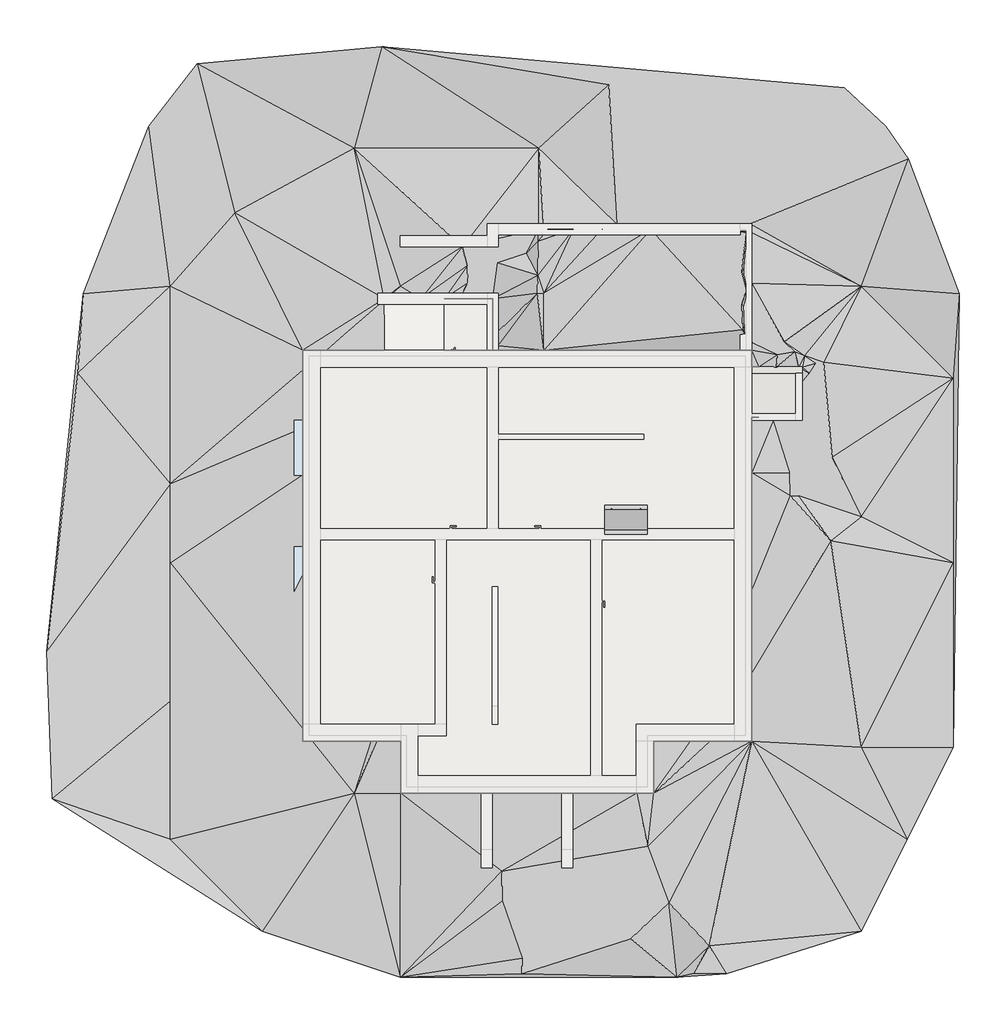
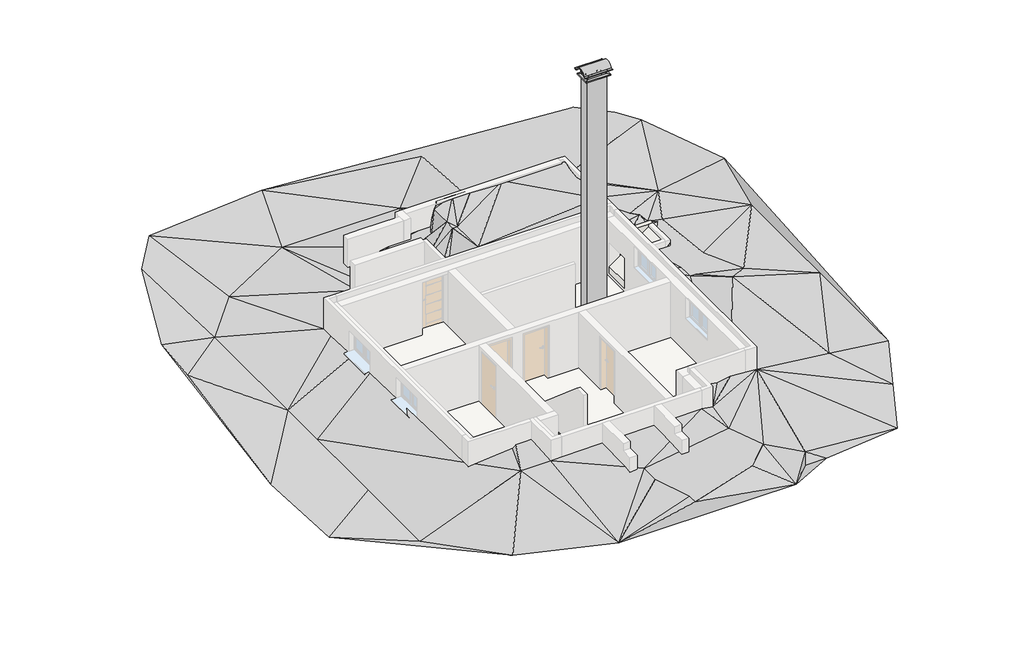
# Not in any storey, part 2 of 2: 8 footings, 6 slabs, 4 proxies, 1 wall.
"""IFC4 building model written with IfcOpenShell, lengths in millimetres."""

from ifc_helpers import new_model, si_unit, frame, origin, place, context, project, spatial, polyline, outline, extrude, faceted_brep, triangles, transform, mapped, element, save
from components import proxy_360_x_650_x_6000_d_140_bfd82147

model = new_model("IFC4")

# Units and contexts
model_context = context("Model", 3, world=origin())
ifc_project = project(units=[si_unit("LENGTHUNIT", "METRE", prefix="MILLI")], contexts=[model_context])

# Site, building
site = spatial("IfcSite", under=ifc_project)
building = spatial("IfcBuilding", under=site)

# Proxies
placement = place(None, origin())
element("IfcBuildingElementProxy", 1, Name="Building Element Proxy", at=placement, inside=building, context=model_context, shape_type="Tessellation", body=[
    triangles([(-3006.145578, -3000.0000229, -246.6645224), (-6.1454637, -4000.0000305, -246.6645224), (5993.8544907, -4000.0000305, -246.6645224), (7061.4567673, -3919.3439072, 253.3354633), (9993.8551025, -3000.0000229, -246.6645224), (10993.8545288, -1000.0000076, -246.6645224), (11993.8539551, 1000.0000076, -246.6645224), (12126.3923767, 10842.9381592, 253.3354633), (11017.1356659, 13770.1420441, 253.3354633), (10524.1332001, 14478.83367, 253.3354633), (9630.5656494, 15310.7759125, 253.3354633), (-414.3653326, 16204.3434631, 253.3354633), (-4420.0127655, 15834.5916138, 253.3354633), (-5467.6435867, 14478.83367, 253.3354633), (-6885.0262573, 10842.9381592, 253.3354633), (-7686.1558456, 3078.1455437, 253.3354633), (-7562.9052292, -126.3724099, 253.3354633), (7614.9997238, 9249.9999252, 198.8656776), (7773.6202744, 9249.9999252, 172.0674587), (7774.9998413, 9249.9999252, 172.1872188), (7774.9998413, 9244.8932602, 171.2769728), (7774.9998413, 9239.9999542, 170.7428484), (7776.3218536, 9239.9999542, 170.5194972), (8151.3745422, 9239.9999542, 203.0732696), (8640.3691132, 9239.9999542, 81.7925365), (8715.0000229, 9239.9999542, 75.7234348), (8715.0000229, 9196.6903885, 54.5431506), (8715.0000229, 8926.3894455, 0.0), (8715.0000229, 8091.2340271, 0.0), (8146.4818176, 8091.2340271, 0.0), (8088.5847702, 8091.2340271, 0.0), (8084.4832764, 8091.2340271, 0.0), (7774.9998413, 8091.2340271, 66.7764973), (7774.9998413, 8161.2344055, 63.3962757), (7614.9997238, 8161.2344055, 97.9191412), (7614.9997238, 6948.7531815, 156.4684653), (7614.9997238, 4396.8633064, 68.5384173), (7614.9997238, 2612.187648, 253.3354633), (7614.9997238, 1125.0000086, 185.8592041), (6724.1721222, 1125.0000086, 253.3354633), (6285.6983047, 1125.0000086, 177.5385273), (5489.9997803, 1125.0000086, 310.2673625), (5489.9997803, 0.0, 271.5034314), (5120.6595337, 0.0, 333.1124434), (0.0, 0.0, 266.4364623), (0.0, 1125.0000086, 347.5304586), (-524.6712087, 1125.0000086, 340.6987172), (-644.7158798, 1125.0000086, 253.3354633), (-1906.1454243, 1125.0000086, 140.8354715), (-2124.9999435, 1125.0000086, 113.4786566), (-2124.9999435, 1398.5681213, 113.4786566), (-2124.9999435, 6907.6429001, -44.3694438), (-2124.9999435, 7925.8074966, -44.3694438), (-2124.9999435, 9182.0325623, -104.5292483), (-2124.9999435, 9614.9997391, -104.5292483), (-1620.3733326, 9614.9997391, -79.6345469), (-360.00001, 9614.9997391, 34.3305966), (-360.00001, 10696.3947784, -17.456672), (-360.00001, 10735.0005615, -17.456672), (-315.0049367, 10735.0005615, -15.2369356), (431.2891906, 10735.0005615, 52.2442811), (950.5286087, 10735.0005615, 154.1045835), (1456.3643028, 10735.0005615, 253.3354633), (1995.0000298, 10735.0005615, 253.3354633), (1995.0000298, 9900.8386871, 253.3354633), (1995.0000298, 9787.696756, 239.0034711), (1995.0000298, 9664.3624237, 244.9098511), (1995.0000298, 9635.5467407, 244.9098511), (1995.0000298, 9614.9997391, 245.4985688), (2082.8728638, 9614.9997391, 253.3354633), (3108.854425, 9614.9997391, 1000.0000076), (7614.9997238, 9614.9997391, 238.7069412), (-1006.1454901, 0.0, 253.3354633), (9993.8551025, 1000.0000076, 0.0), (9993.8551025, 6000.0000458, 0.0), (-6.1454637, 10999.9995026, 0.0), (2993.8544678, 14000.0001068, -246.6645224), (-1006.1454901, 14000.0001068, -246.6645224), (-3596.3679817, 12597.6647736, -246.6645224), (-5006.1455933, 10999.9995026, -246.6645224), (-5006.1455933, 6710.0229858, -246.6645224), (-5006.1455933, 5000.0000381, -246.6645224), (-5006.1455933, 2000.0000153, -246.6645224), (-5006.1455933, -1000.0000076, -246.6645224), (11993.8539551, 5000.0000381, -246.6645224), (11993.8539551, 9000.0000687, -246.6645224), (9993.8551025, 10999.9995026, -246.6645224), (5993.8544907, 12999.9995178, 253.3354633), (-7008.2768738, 9117.4289474, 253.3354633), (4515.6621597, 15372.4012207, 253.3354633), (2988.8544823, 12234.9997009, 253.3354633), (7614.9997238, 12160.4635529, 253.3354633), (7631.7870712, 9774.9998566, 253.3354633), (2114.9999725, 9715.0000305, 253.3354633), (1338.8544697, 10855.0002136, 253.3354633), (1338.8544697, 11854.9996399, 253.3354633), (2988.8544823, 11975.0004547, 950.0000072), (3108.854425, 12115.0000488, 950.0000072), (7492.3263977, 12022.9533417, 950.0000072), (3108.854425, 10855.0002136, 950.0000072), (7423.7282593, 10057.5802826, 950.0000072), (7404.1846848, 10597.2531555, 950.0000072), (7495.0000717, 10924.9994293, 950.0000072), (7404.1846848, 11304.0809418, 950.0000072), (7441.4963608, 11756.530069, 950.0000072), (7495.0000717, 12160.4635529, 950.0000072), (7028.1617065, 12234.9997009, 950.0000072), (6305.688945, 12234.9997009, 950.0000072), (5429.9644913, 12234.9997009, 950.0000072), (4379.0949142, 12234.9997009, 1000.0000076), (3744.1947144, 12234.9997009, 1000.0000076), (3196.8667854, 12234.9997009, 1000.0000076), (2977.935672, 11238.4012299, 950.0000072), (2966.9892471, 10855.0002136, 950.0000072), (3098.3477989, 12355.0005157, 253.3354633), (3744.1947144, 12355.0005157, 253.3354633), (4685.5985893, 12355.0005157, 253.3354633), (5473.7507721, 12355.0005157, 253.3354633), (6535.566774, 12355.0005157, 253.3354633), (6152.4372528, 12355.0005157, 253.3354633), (7028.1617065, 12355.0005157, 253.3354633), (7586.4357697, 12355.0005157, 253.3354633), (7614.9997238, 11692.0979553, 253.3354633), (7614.9997238, 11065.0001862, 253.3354633), (7585.764299, 10444.7426971, 253.3354633), (7614.9997238, 9973.5807587, 253.3354633), (1895.1187717, 11605.1137299, 253.3354633), (1445.4177326, 11446.3850464, 253.3354633), (1456.3643028, 11074.2031128, 253.3354633), (1456.3643028, 10855.0002136, 253.3354633), (1686.9199974, 11605.992746, 253.3354633), (1968.3868286, 11433.7613983, 253.3354633), (2726.225164, 11721.4705811, 253.3354633), (2099.5658855, 11506.7139221, 253.3354633), (2190.9571095, -1694.2166451, 253.3354633), (2199.5246098, -2336.860849, 253.3354633), (2689.1108597, -3274.9166725, 253.3354633), (2636.3597191, -3586.0633781, 253.3354633), (2632.0335297, -3918.1785713, 253.3354633), (5361.3227509, -1150.202104, 253.3354633), (5815.377594, -2377.8185234, 253.3354633), (6698.8341339, -3312.1678871, 253.3354633), (6356.5811874, -3904.5529495, 253.3354633), (4998.5309418, -3156.7753372, 253.3354633), (3926.7071205, -2866.923262, 253.3354633), (3578.0281128, -2977.3252441, 253.3354633), (8642.3195755, 6453.7310715, 0.0), (8441.3254486, 6956.0079712, 0.0), (9331.5658768, 5477.8993561, 253.3354633), (9369.5280945, 7295.7924637, 0.0), (8450.8545181, 6454.1856949, 0.0), (8864.3833466, 9109.9997498, 0.0), (8170.5448837, 9512.647847, 253.3354633), (9004.4032883, 9330.2990936, 0.0), (9186.7886673, 9354.9877029, 0.0), (8327.129512, 9797.0833923, 253.3354633), (8767.2892731, 9493.1920578, 0.0), (8548.4846054, 9575.4945923, 253.3354633)], [[50, 84, 73], [1, 84, 17], [50, 83, 84], [17, 84, 83], [84, 1, 73], [49, 73, 48], [47, 48, 73], [73, 45, 47], [49, 50, 73], [1, 2, 73], [51, 83, 50], [16, 83, 82], [83, 16, 17], [16, 81, 89], [81, 16, 82], [81, 82, 52], [80, 89, 81], [51, 82, 83], [16, 89, 15], [53, 54, 81], [81, 54, 80], [59, 55, 56], [81, 52, 53], [51, 52, 82], [80, 54, 55], [2, 139, 138], [139, 2, 3], [146, 135, 136], [136, 135, 2], [138, 136, 2], [137, 136, 138], [139, 146, 138], [2, 135, 45], [138, 146, 137], [146, 139, 144], [135, 140, 44], [145, 146, 144], [145, 140, 135], [135, 146, 145], [145, 144, 140], [146, 136, 137], [139, 3, 144], [66, 67, 94], [56, 57, 58], [135, 44, 45], [47, 45, 46], [69, 70, 68], [94, 67, 70], [94, 70, 71], [66, 94, 65], [70, 67, 68], [114, 94, 71], [109, 100, 71], [45, 73, 2], [79, 55, 59], [56, 58, 59], [76, 59, 60], [78, 59, 76], [60, 61, 76], [80, 15, 89], [62, 63, 95], [61, 62, 128], [95, 63, 130], [129, 62, 95], [61, 96, 76], [129, 130, 64], [129, 95, 130], [80, 79, 14], [79, 59, 78], [79, 13, 14], [13, 79, 78], [13, 78, 12], [55, 79, 80], [80, 14, 15], [131, 128, 132], [128, 96, 61], [96, 77, 78], [77, 12, 78], [131, 96, 128], [127, 96, 131], [132, 128, 129], [76, 96, 78], [128, 62, 129], [130, 63, 64], [134, 64, 113], [132, 129, 64], [127, 132, 134], [127, 131, 132], [134, 132, 64], [127, 134, 133], [64, 65, 114], [114, 100, 113], [114, 65, 94], [133, 113, 97], [133, 134, 113], [111, 97, 113], [127, 133, 91], [113, 100, 111], [113, 64, 114], [71, 100, 114], [91, 133, 97], [91, 98, 112], [98, 91, 97], [116, 77, 115], [115, 77, 91], [112, 115, 91], [116, 115, 112], [98, 111, 112], [77, 96, 91], [111, 110, 116], [111, 98, 97], [117, 90, 77], [117, 116, 110], [90, 117, 88], [117, 77, 116], [110, 100, 109], [111, 116, 112], [100, 110, 111], [77, 90, 12], [110, 109, 117], [91, 96, 127], [12, 90, 11], [141, 3, 142], [141, 140, 144], [39, 43, 140], [140, 141, 39], [141, 144, 3], [143, 4, 142], [4, 143, 3], [39, 40, 43], [5, 39, 142], [141, 142, 39], [142, 4, 5], [142, 3, 143], [43, 40, 41], [41, 42, 43], [35, 36, 33], [32, 33, 36], [33, 34, 35], [38, 149, 37], [22, 23, 21], [151, 36, 37], [38, 39, 74], [149, 75, 147], [75, 149, 85], [148, 151, 147], [148, 32, 36], [147, 151, 149], [150, 148, 147], [150, 147, 75], [151, 37, 149], [6, 74, 39], [74, 7, 85], [7, 74, 6], [86, 85, 8], [74, 85, 149], [149, 38, 74], [36, 151, 148], [86, 75, 85], [31, 148, 30], [29, 30, 148], [31, 32, 148], [29, 152, 28], [155, 152, 29], [26, 27, 152], [152, 27, 28], [29, 150, 155], [150, 75, 86], [29, 148, 150], [150, 86, 155], [85, 7, 8], [5, 6, 39], [23, 24, 20], [103, 104, 102], [101, 102, 109], [99, 105, 123], [105, 104, 123], [105, 99, 107], [104, 105, 107], [102, 101, 125], [102, 104, 108], [93, 126, 101], [93, 101, 72], [102, 125, 103], [101, 126, 125], [124, 104, 103], [92, 106, 99], [72, 18, 19], [101, 71, 72], [109, 71, 101], [125, 124, 103], [109, 108, 120], [109, 102, 108], [118, 120, 88], [120, 118, 109], [119, 88, 120], [118, 88, 117], [120, 108, 119], [109, 118, 117], [107, 106, 121], [107, 108, 104], [107, 121, 119], [121, 106, 122], [121, 122, 88], [119, 121, 88], [122, 106, 92], [107, 119, 108], [106, 107, 99], [88, 122, 11], [125, 126, 156], [23, 20, 21], [153, 24, 158], [153, 158, 156], [153, 72, 20], [24, 153, 20], [72, 153, 93], [25, 26, 157], [157, 154, 155], [154, 157, 26], [154, 26, 152], [158, 157, 156], [152, 155, 154], [25, 157, 158], [25, 158, 24], [87, 157, 155], [156, 124, 125], [156, 93, 153], [123, 92, 99], [87, 123, 124], [87, 92, 123], [123, 104, 124], [87, 124, 156], [156, 126, 93], [87, 8, 9], [87, 156, 157], [11, 122, 10], [9, 10, 122], [87, 9, 122], [86, 87, 155], [92, 87, 122], [86, 8, 87], [20, 72, 19], [88, 11, 90], [44, 140, 43]], closed=False),
])
element("IfcBuildingElementProxy", 2, Name="Building Element Proxy", at=placement, inside=building, context=model_context, shape_type="Tessellation", body=[
    triangles([(950.5286087, 9614.9997391, -1201.1595314), (950.5286087, 9614.9997391, -947.8240499), (1878.0215595, 9614.9997391, -1201.1595314), (1878.0215595, 9614.9997391, -947.8240499), (1963.9683483, 9614.9997391, -1201.1595314), (1963.9683483, 9614.9997391, -947.8240499), (1995.0000298, 9614.9997391, -1201.1595314), (1995.0000298, 9614.9997391, -947.8240499)], [[1, 4, 2], [1, 3, 4], [3, 6, 4], [3, 5, 6], [5, 8, 6], [5, 7, 8]], closed=False),
    triangles([(7774.9998413, 9239.9999542, -1201.1595314), (7774.9998413, 9239.9999542, 170.7428484), (7774.9998413, 9244.8932602, -1201.1595314), (7774.9998413, 9244.8932602, 171.2769728), (7774.9998413, 9249.9999252, -1201.1595314), (7774.9998413, 9249.9999252, 172.1872188), (7773.6202744, 9249.9999252, -1201.1595314), (7773.6202744, 9249.9999252, 172.0674587), (7614.9997238, 9249.9999252, -1201.1595314), (7614.9997238, 9249.9999252, 198.8656776), (7614.9997238, 9614.9997391, -1201.1595314), (7614.9997238, 9614.9997391, 238.7069412), (3108.854425, 9614.9997391, -1201.1595314), (3108.854425, 9614.9997391, 1000.0000076), (2082.8728638, 9614.9997391, -1201.1595314), (2082.8728638, 9614.9997391, 253.3354633), (1995.0000298, 9614.9997391, -1201.1595314), (1995.0000298, 9614.9997391, 245.4985688)], [[1, 4, 2], [1, 3, 4], [3, 6, 4], [3, 5, 6], [5, 8, 6], [5, 7, 8], [7, 10, 8], [7, 9, 10], [9, 12, 10], [9, 11, 12], [11, 14, 12], [11, 13, 14], [13, 16, 14], [13, 15, 16], [15, 18, 16], [15, 17, 18]], closed=False),
    triangles([(7774.9998413, 8161.2344055, -1201.1595314), (7774.9998413, 8161.2344055, 63.3962757), (7614.9997238, 8161.2344055, -1201.1595314), (7614.9997238, 8161.2344055, 97.9191412), (7614.9997238, 6948.7531815, -1201.1595314), (7614.9997238, 6948.7531815, 156.4684653), (7614.9997238, 4396.8633064, -1201.1595314), (7614.9997238, 4396.8633064, 68.5384173), (7614.9997238, 2612.187648, -1201.1595314), (7614.9997238, 2612.187648, 253.3354633), (7614.9997238, 1125.0000086, -1201.1595314), (7614.9997238, 1125.0000086, 185.8592041), (6724.1721222, 1125.0000086, -1201.1595314), (6724.1721222, 1125.0000086, 253.3354633), (6285.6983047, 1125.0000086, -1201.1595314), (6285.6983047, 1125.0000086, 177.5385273), (5489.9997803, 1125.0000086, -1201.1595314), (5489.9997803, 1125.0000086, 310.2673625), (5489.9997803, 0.0, -1201.1595314), (5489.9997803, 0.0, 271.5034314), (5120.6595337, 0.0, -1201.1595314), (5120.6595337, 0.0, 333.1124434), (0.0, 0.0, -1201.1595314), (0.0, 0.0, 266.4364623), (0.0, 1125.0000086, -1201.1595314), (0.0, 1125.0000086, 347.5304586), (-524.6712087, 1125.0000086, -1201.1595314), (-524.6712087, 1125.0000086, 340.6987172), (-644.7158798, 1125.0000086, -1201.1595314), (-644.7158798, 1125.0000086, 253.3354633), (-1906.1454243, 1125.0000086, -1201.1595314), (-1906.1454243, 1125.0000086, 140.8354715), (-2124.9999435, 1125.0000086, -1201.1595314), (-2124.9999435, 1125.0000086, 113.4786566), (-2124.9999435, 1398.5681213, -1201.1595314), (-2124.9999435, 1398.5681213, 113.4786566), (-2124.9999435, 6907.6429001, -1201.1595314), (-2124.9999435, 6907.6429001, -44.3694438), (-2124.9999435, 7925.8074966, -1201.1595314), (-2124.9999435, 7925.8074966, -44.3694438), (-2124.9999435, 9182.0325623, -1201.1595314), (-2124.9999435, 9182.0325623, -104.5292483), (-2124.9999435, 9614.9997391, -1201.1595314), (-2124.9999435, 9614.9997391, -104.5292483), (-1620.3733326, 9614.9997391, -1201.1595314), (-1620.3733326, 9614.9997391, -79.6345469), (-360.00001, 9614.9997391, -1201.1595314), (-360.00001, 9614.9997391, 34.3305966)], [[1, 4, 2], [1, 3, 4], [3, 6, 4], [3, 5, 6], [5, 8, 6], [5, 7, 8], [7, 10, 8], [7, 9, 10], [9, 12, 10], [9, 11, 12], [11, 14, 12], [11, 13, 14], [13, 16, 14], [13, 15, 16], [15, 18, 16], [15, 17, 18], [17, 20, 18], [17, 19, 20], [19, 22, 20], [19, 21, 22], [21, 24, 22], [21, 23, 24], [23, 26, 24], [23, 25, 26], [25, 28, 26], [25, 27, 28], [27, 30, 28], [27, 29, 30], [29, 32, 30], [29, 31, 32], [31, 34, 32], [31, 33, 34], [33, 36, 34], [33, 35, 36], [35, 38, 36], [35, 37, 38], [37, 40, 38], [37, 39, 40], [39, 42, 40], [39, 41, 42], [41, 44, 42], [41, 43, 44], [43, 46, 44], [43, 45, 46], [45, 48, 46], [45, 47, 48]], closed=False),
    triangles([(7614.9997238, 9614.9997391, -1201.1595314), (-2124.9999435, 9614.9997391, -1201.1595314), (-2124.9999435, 1125.0000086, -1201.1595314), (0.0, 1125.0000086, -1201.1595314), (0.0, 0.0, -1201.1595314), (5489.9997803, 0.0, -1201.1595314), (5489.9997803, 1125.0000086, -1201.1595314), (7614.9997238, 1125.0000086, -1201.1595314), (7614.9997238, 8161.2344055, -1201.1595314), (7774.9998413, 8161.2344055, -1201.1595314), (7774.9998413, 9249.9999252, -1201.1595314), (7614.9997238, 9249.9999252, -1201.1595314)], [[4, 5, 6], [9, 2, 4], [4, 2, 3], [7, 4, 6], [9, 4, 7], [8, 9, 7], [9, 10, 12], [11, 12, 10], [1, 2, 12], [12, 2, 9]], closed=False),
])
element("IfcBuildingElementProxy", 3, Name="Building Element Proxy", at=placement, inside=building, context=model_context, shape_type="Tessellation", body=[
    triangles([(950.5286087, 10735.0005615, -947.8240499), (950.5286087, 10735.0005615, 154.1045835), (1456.3643028, 10735.0005615, -947.8240499), (1456.3643028, 10735.0005615, 253.3354633), (1995.0000298, 10735.0005615, -947.8240499), (1995.0000298, 10735.0005615, 253.3354633), (1995.0000298, 9900.8386871, -947.8240499), (1995.0000298, 9900.8386871, 253.3354633), (1995.0000298, 9787.696756, -947.8240499), (1995.0000298, 9787.696756, 239.0034711), (1995.0000298, 9664.3624237, -947.8240499), (1995.0000298, 9664.3624237, 244.9098511), (1995.0000298, 9635.5467407, -947.8240499), (1995.0000298, 9635.5467407, 244.9098511), (1995.0000298, 9614.9997391, -947.8240499), (1995.0000298, 9614.9997391, 245.4985688)], [[1, 4, 2], [1, 3, 4], [3, 6, 4], [3, 5, 6], [5, 8, 6], [5, 7, 8], [7, 10, 8], [7, 9, 10], [9, 12, 10], [9, 11, 12], [11, 14, 12], [11, 13, 14], [13, 16, 14], [13, 15, 16]], closed=False),
    triangles([(950.5286087, 10735.0005615, -947.8240499), (950.5286087, 9614.9997391, -947.8240499), (1995.0000298, 9614.9997391, -947.8240499), (1995.0000298, 10735.0005615, -947.8240499)], [[1, 2, 4], [3, 4, 2]], closed=False),
])
proxy_360_x_650_x_6000_d_140_shape = proxy_360_x_650_x_6000_d_140_bfd82147(model_context)
element("IfcBuildingElementProxy", 4, Name="Kamin-03 zweizügig : 360 x 650 x 6000 D 140", ObjectType="Kamin-03 zweizügig : 360 x 650 x 6000 D 140", at=placement, inside=building, context=model_context, shape_type="MappedRepresentation", body=[
    mapped(proxy_360_x_650_x_6000_d_140_shape, transform((4890.0, 5931.2341615, -1200.0), x_axis=(1.0, 0.0, 0.0), y_axis=(0.0, 1.0, 0.0), z_axis=(0.0, 0.0, 1.0))),
])

# Footings
element("IfcFooting", 5, ObjectType="STB 440 x 300", at=placement, inside=building, context=model_context, shape_type="Brep", body=[
    faceted_brep([(7715.0, 9615.0, -1200.0), (7275.0, 9615.0, -1200.0), (7275.0, 9615.0, -1500.0), (7715.0, 9615.0, -1500.0), (7715.0, 12455.0, -1200.0), (7275.0, 12455.0, -1200.0), (7275.0, 12015.0, -1200.0), (7275.0, 12455.0, -1500.0), (7275.0, 12015.0, -1500.0), (7715.0, 12455.0, -1500.0)], [[[0, 1, 2, 3]], [[0, 4, 5, 6, 1]], [[2, 1, 6, 5, 7, 8]], [[3, 2, 8, 7, 9]], [[0, 3, 9, 4]], [[5, 4, 9, 7]]]),
])
element("IfcFooting", 6, ObjectType="STB 440 x 300", at=placement, inside=building, context=model_context, shape_type="Brep", body=[
    faceted_brep([(2215.0, 9615.0, -1200.0), (1775.0, 9615.0, -1200.0), (1775.0, 9615.0, -1500.0), (2215.0, 9615.0, -1500.0), (2215.0, 10955.0, -1200.0), (1775.0, 10955.0, -1200.0), (1775.0, 10515.0, -1200.0), (1775.0, 10955.0, -1500.0), (1775.0, 10515.0, -1500.0), (2215.0, 10955.0, -1500.0)], [[[0, 1, 2, 3]], [[0, 4, 5, 6, 1]], [[2, 1, 6, 5, 7, 8]], [[3, 2, 8, 7, 9]], [[0, 3, 9, 4]], [[5, 4, 9, 7]]]),
])
element("IfcFooting", 7, ObjectType="STB 440 x 300", at=placement, inside=building, context=model_context, shape_type="SweptSolid", body=[
    extrude(outline(polyline([(-500.0, 10515.0), (-500.0, 10955.0), (1775.0, 10955.0), (1775.0, 10515.0), (-500.0, 10515.0)])), frame((0.0, 0.0, -1500.0), z_axis=(0.0, 0.0, 1.0), x_axis=(1.0, 0.0, 0.0)), (0.0, 0.0, 1.0), 300.0),
])
element("IfcFooting", 8, ObjectType="STB 440 x 300", at=placement, inside=building, context=model_context, shape_type="SweptSolid", body=[
    extrude(outline(polyline([(1650.0, 0.0), (2090.0, 0.0), (2090.0, -1620.0), (1650.0, -1620.0), (1650.0, 0.0)])), frame((0.0, 0.0, -800.0), z_axis=(0.0, 0.0, 1.0), x_axis=(1.0, 0.0, 0.0)), (0.0, 0.0, 1.0), 300.0),
])
element("IfcFooting", 9, ObjectType="STB 440 x 300", at=placement, inside=building, context=model_context, shape_type="Brep", body=[
    faceted_brep([(1775.0, 12455.0, -1200.0), (1775.0, 12195.0, -1200.0), (1775.0, 11755.0, -1200.0), (2215.0, 11755.0, -1200.0), (2215.0, 12015.0, -1200.0), (2215.0, 12455.0, -1200.0), (2215.0, 12455.0, -1500.0), (2215.0, 11755.0, -1500.0), (2215.0, 12015.0, -1500.0), (1775.0, 12455.0, -1500.0), (1775.0, 11755.0, -1500.0), (1775.0, 12195.0, -1500.0)], [[[0, 1, 2, 3, 4, 5]], [[6, 5, 4, 3, 7, 8]], [[9, 6, 8, 7, 10, 11]], [[0, 9, 11, 10, 2, 1]], [[3, 2, 10, 7]], [[0, 5, 6, 9]]]),
])
element("IfcFooting", 10, ObjectType="STB 440 x 300", at=placement, inside=building, context=model_context, shape_type="SweptSolid", body=[
    extrude(outline(polyline([(-5.0, 11755.0), (-5.0, 12195.0), (1775.0, 12195.0), (1775.0, 11755.0), (-5.0, 11755.0)])), frame((0.0, 0.0, -1500.0), z_axis=(0.0, 0.0, 1.0), x_axis=(1.0, 0.0, 0.0)), (0.0, 0.0, 1.0), 300.0),
])
element("IfcFooting", 11, ObjectType="STB 440 x 300", at=placement, inside=building, context=model_context, shape_type="SweptSolid", body=[
    extrude(outline(polyline([(7275.0, 12455.0), (7275.0, 12015.0), (2215.0, 12015.0), (2215.0, 12455.0), (7275.0, 12455.0)])), frame((0.0, 0.0, -1500.0), z_axis=(0.0, 0.0, 1.0), x_axis=(1.0, 0.0, 0.0)), (0.0, 0.0, 1.0), 300.0),
])
element("IfcFooting", 12, ObjectType="STB 440 x 300", at=placement, inside=building, context=model_context, shape_type="SweptSolid", body=[
    extrude(outline(polyline([(3400.0, 0.0), (3840.0, 0.0), (3840.0, -1620.0), (3400.0, -1620.0), (3400.0, 0.0)])), frame((0.0, 0.0, -800.0), z_axis=(0.0, 0.0, 1.0), x_axis=(1.0, 0.0, 0.0)), (0.0, 0.0, 1.0), 300.0),
])

# Slabs
element("IfcSlab", 13, ObjectType="STB 200", at=placement, inside=building, context=model_context, shape_type="Brep", body=[
    faceted_brep([(8575.0, 9109.0, -145.4701192), (8575.0, 8231.2341615, -145.4701192), (7514.6869569, 8231.2341615, -900.0), (7240.0, 8231.2341615, -1095.4701192), (7240.0, 9109.0, -1095.4701192), (7514.6869569, 9109.0, -900.0), (8575.0, 9109.0, 100.0), (7240.0, 9109.0, -850.0), (7240.0, 8231.2341615, -850.0), (8575.0, 8231.2341615, 100.0)], [[[0, 1, 2, 3, 4, 5]], [[6, 7, 8, 9]], [[1, 0, 6, 9]], [[3, 2, 1, 9, 8]], [[4, 3, 8, 7]], [[0, 5, 4, 7, 6]]]),
])
element("IfcSlab", 14, ObjectType="STB 300", at=placement, inside=building, context=model_context, shape_type="Brep", body=[
    faceted_brep([(-2225.0, 9715.0, -1500.0), (915.0, 9715.0, -1500.0), (915.0, 10615.0, -1500.0), (1875.0, 10615.0, -1500.0), (1875.0, 9715.0, -1500.0), (7715.0, 9715.0, -1500.0), (7715.0, 9350.0, -1500.0), (8815.0, 9350.0, -1500.0), (8815.0, 7991.2341615, -1500.0), (7715.0, 7991.2341615, -1500.0), (7715.0, 1025.0, -1500.0), (5590.0, 1025.0, -1500.0), (5590.0, -100.0, -1500.0), (-100.0, -100.0, -1500.0), (-100.0, 1025.0, -1500.0), (-2225.0, 1025.0, -1500.0), (-2225.0, 9715.0, -1200.0), (915.0, 9715.0, -1200.0), (7715.0, 7991.2341615, -1200.0), (7715.0, 1025.0, -1200.0), (5590.0, 1025.0, -1200.0), (5590.0, -100.0, -1200.0), (-100.0, -100.0, -1200.0), (-100.0, 1025.0, -1200.0), (-2225.0, 1025.0, -1200.0), (7715.0, 9715.0, -1200.0), (7715.0, 9350.0, -1200.0), (8815.0, 9350.0, -1200.0), (8815.0, 7991.2341615, -1200.0), (1875.0, 9715.0, -1200.0), (1875.0, 10615.0, -1200.0), (915.0, 10615.0, -1200.0), (4365.0, 1490.0, -1200.0), (4365.0, 5500.0, -1200.0), (7250.0, 5500.0, -1200.0), (7250.0, 1490.0, -1200.0), (5807.5, 3495.0, -1260.0)], [[[0, 1, 2, 3, 4, 5, 6, 7, 8, 9, 10, 11, 12, 13, 14, 15]], [[1, 0, 16, 17]], [[10, 9, 18, 19]], [[11, 10, 19, 20]], [[12, 11, 20, 21]], [[13, 12, 21, 22]], [[14, 13, 22, 23]], [[15, 14, 23, 24]], [[0, 15, 24, 16]], [[6, 5, 25, 26]], [[7, 6, 26, 27]], [[8, 7, 27, 28]], [[9, 8, 28, 18]], [[24, 23, 22, 21, 20, 19, 18, 28, 27, 26, 25, 29, 30, 31, 17, 16], [32, 33, 34, 35]], [[32, 35, 36]], [[32, 36, 33]], [[35, 34, 36]], [[34, 33, 36]], [[2, 1, 17, 31]], [[3, 2, 31, 30]], [[4, 3, 30, 29]], [[5, 4, 29, 25]]]),
])
element("IfcSlab", 15, ObjectType="Sohle 1 mm", at=placement, inside=building, context=model_context, shape_type="SweptSolid", body=[
    extrude(outline(polyline([(7615.0, 9615.0), (7615.0, 9250.0), (7775.0, 9250.0), (7775.0, 8161.2341615), (7615.0, 8161.2341615), (7615.0, 1125.0), (5490.0, 1125.0), (5490.0, 0.0), (0.0, 0.0), (0.0, 1125.0), (-2125.0, 1125.0), (-2125.0, 9615.0), (7615.0, 9615.0)])), frame((0.0, 0.0, -1201.0), z_axis=(0.0, 0.0, 1.0), x_axis=(1.0, 0.0, 0.0)), (0.0, 0.0, 1.0), 1.0),
])
element("IfcSlab", 16, ObjectType="Sohle 1 mm", at=placement, inside=building, context=model_context, shape_type="SweptSolid", body=[
    extrude(outline(polyline([(-851.4217559, 7775.0), (98.5782441, 8715.0), (100.0, 8715.0), (-850.0, 7775.0), (-851.4217559, 7775.0)])), frame((0.0, 8091.2341615, 0.0), z_axis=(0.0, 1.0, 0.0), x_axis=(0.0, 0.0, 1.0)), (0.0, 0.0, 1.0), 1148.7658385),
])
element("IfcSlab", 17, ObjectType="Sohle 1 mm", at=placement, inside=building, context=model_context, shape_type="SweptSolid", body=[
    extrude(outline(polyline([(950.5286031, 10735.0), (1995.0, 10735.0), (1995.0, 9615.0), (950.5286031, 9615.0), (950.5286031, 10735.0)])), frame((0.0, 0.0, -947.66453), z_axis=(0.0, 0.0, 1.0), x_axis=(1.0, 0.0, 0.0)), (0.0, 0.0, 1.0), 1.0),
])
element("IfcSlab", 18, ObjectType="Sohle 1 mm", at=placement, inside=building, context=model_context, shape_type="SweptSolid", body=[
    extrude(outline(polyline([(-1.3558891, -360.0), (-1201.3558891, 950.5286031), (-1200.0, 950.5286031), (0.0, -360.0), (-1.3558891, -360.0)])), frame((0.0, 9615.0, 0.0), z_axis=(0.0, 1.0, 0.0), x_axis=(0.0, 0.0, 1.0)), (0.0, 0.0, 1.0), 1120.0),
])

# Wall
element("IfcWall", 19, ObjectType="Klinker 140", at=placement, inside=building, context=model_context, shape_type="Brep", body=[
    faceted_brep([(7615.0, 9110.0, -1200.0), (8575.0, 9110.0, -1200.0), (8715.0, 9110.0, -1200.0), (8715.0, 9110.0, 200.0), (8575.0, 9110.0, 200.0), (7615.0, 9110.0, 200.0), (7615.0, 9250.0, -1200.0), (7615.0, 9250.0, 200.0), (8715.0, 9250.0, 200.0), (8715.0, 9250.0, -1200.0)], [[[0, 1, 2, 3, 4, 5]], [[6, 7, 8, 9]], [[2, 1, 0, 6, 9]], [[5, 4, 3, 8, 7]], [[3, 2, 9, 8]], [[0, 5, 7, 6]]]),
])

save(model, "model.ifc")
